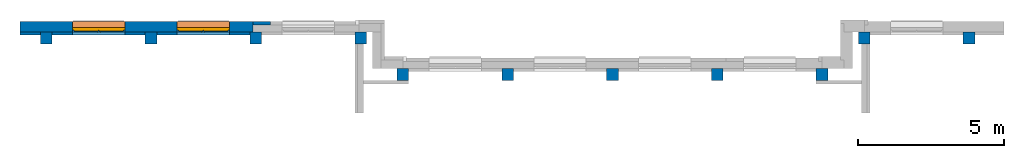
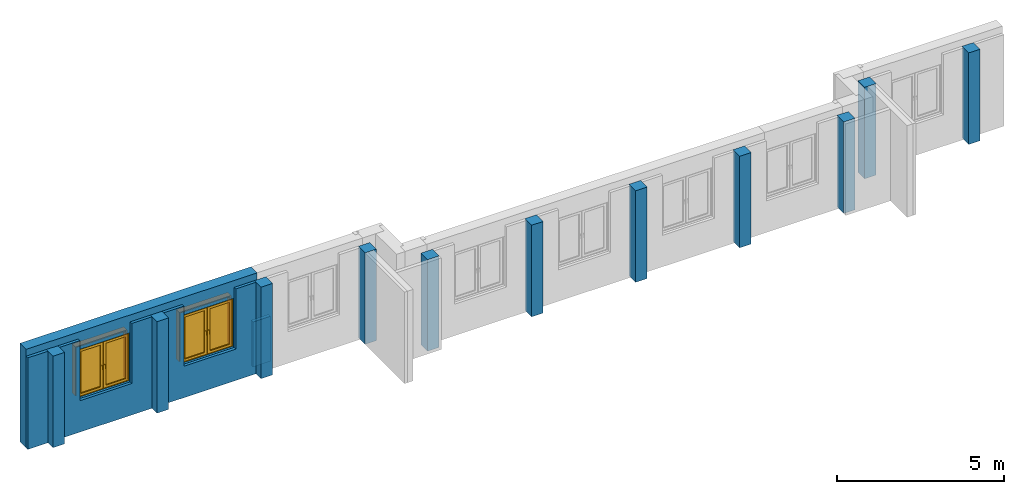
# One storey, part 1 of 7: 11 columns, 3 walls, 2 proxies, 2 windows, 4 openings.
"""IFC4 building model written with IfcOpenShell, lengths in metres."""

from ifc_helpers import new_model, entity, si_unit, converted_unit, derived_unit, frame, frame_2d, origin, origin_with_axes, place, context, subcontext, project, spatial, polyline, rectangle, outline, extrude, closed_shell, open_shell, faceted_brep, surface_model, source, transform, mapped, material, layer, layer_set, layer_usage, element, fill, save


model = new_model("IFC4")

# Units and contexts
model_context = context("Model", 3, precision=1e-05, world=origin())
body_context = subcontext(model_context, "Body", "Model", "MODEL_VIEW")
ifc_project = project(units=[si_unit("LENGTHUNIT", "METRE"), si_unit("AREAUNIT", "SQUARE_METRE"), si_unit("VOLUMEUNIT", "CUBIC_METRE"), si_unit("MASSUNIT", "GRAM", prefix="KILO"), converted_unit("PLANEANGLEUNIT", "DEGREE", entity("IfcPlaneAngleMeasure", 0.0174532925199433), si_unit("PLANEANGLEUNIT", "RADIAN"), dimensions=[0, 0, 0, 0, 0, 0, 0]), derived_unit("THERMALTRANSMITTANCEUNIT", [(si_unit("POWERUNIT", "WATT"), 1), (si_unit("THERMODYNAMICTEMPERATUREUNIT", "KELVIN"), -1), (si_unit("LENGTHUNIT", "METRE"), -2)]), derived_unit("VOLUMETRICFLOWRATEUNIT", [(si_unit("LENGTHUNIT", "METRE"), 3), (converted_unit("TIMEUNIT", "hour", entity("IfcTimeMeasure", 3600.0), si_unit("TIMEUNIT", "SECOND"), dimensions=[0, 0, 1, 0, 0, 0, 0]), -1), (si_unit("LENGTHUNIT", "METRE"), -1)])], contexts=[model_context])

# Site, building, storey
site_placement = place(None, origin())
site = spatial("IfcSite", under=ifc_project, at=site_placement, Name="3. ASŘ", CompositionType="ELEMENT")
building_placement = place(site_placement, origin())
building = spatial("IfcBuilding", under=site, at=building_placement, Name="Pavilon B", CompositionType="ELEMENT")
storey_placement = place(building_placement, frame((0.0, 0.0, 3.6)))
storey = spatial("IfcBuildingStorey", under=building, at=storey_placement, Name="Půdorys 2.NP", CompositionType="ELEMENT", Elevation=3.6)

# Columns
ifc_material_1 = material(Name="ZELEZOBETONOVÁ KCE")
column_1_placement = place(storey_placement, frame((37.05, -16.85, -0.1)))
element("IfcColumn", 1, at=column_1_placement, inside=storey, material=ifc_material_1, PredefinedType="COLUMN", context=body_context, shape_type="SweptSolid", body=[
    extrude(rectangle(XDim=0.4, YDim=0.4, at=frame_2d((-0.2, -0.2), x_axis=(-1.0, 0.0))), origin_with_axes(), (0.0, 0.0, 1.0), 3.35),
])
ifc_material_2 = material(Name="ZELEZOBETONOVÁ KCE")
column_2_placement = place(storey_placement, frame((40.65, -16.85, -0.1)))
element("IfcColumn", 2, at=column_2_placement, inside=storey, material=ifc_material_2, PredefinedType="COLUMN", context=body_context, shape_type="SweptSolid", body=[
    extrude(rectangle(XDim=0.4, YDim=0.4, at=frame_2d((-0.2, -0.2), x_axis=(-1.0, 0.0))), origin_with_axes(), (0.0, 0.0, 1.0), 3.35),
])
ifc_material_3 = material(Name="ZELEZOBETONOVÁ KCE")
column_3_placement = place(storey_placement, frame((44.25, -16.85, -0.1)))
element("IfcColumn", 3, at=column_3_placement, inside=storey, material=ifc_material_3, PredefinedType="COLUMN", context=body_context, shape_type="SweptSolid", body=[
    extrude(rectangle(XDim=0.4, YDim=0.4, at=frame_2d((-0.2, -0.2), x_axis=(-1.0, 0.0))), origin_with_axes(), (0.0, 0.0, 1.0), 3.35),
])
ifc_material_4 = material(Name="ZELEZOBETONOVÁ KCE")
column_4_placement = place(storey_placement, frame((33.45, -16.85, -0.1)))
element("IfcColumn", 4, at=column_4_placement, inside=storey, material=ifc_material_4, PredefinedType="COLUMN", context=body_context, shape_type="SweptSolid", body=[
    extrude(rectangle(XDim=0.4, YDim=0.4, at=frame_2d((-0.2, -0.2), x_axis=(-1.0, 0.0))), origin_with_axes(), (0.0, 0.0, 1.0), 3.35),
])
ifc_material_5 = material(Name="ZELEZOBETONOVÁ KCE")
column_5_placement = place(storey_placement, frame((21.2, -15.6, -0.1)))
element("IfcColumn", 5, at=column_5_placement, inside=storey, material=ifc_material_5, PredefinedType="COLUMN", context=body_context, shape_type="SweptSolid", body=[
    extrude(rectangle(XDim=0.4, YDim=0.4, at=frame_2d((-0.2, -0.2), x_axis=(-1.0, 0.0))), origin_with_axes(), (0.0, 0.0, 1.0), 3.35),
])
ifc_material_6 = material(Name="ZELEZOBETONOVÁ KCE")
column_6_placement = place(storey_placement, frame((47.85, -16.85, -0.1)))
element("IfcColumn", 6, at=column_6_placement, inside=storey, material=ifc_material_6, PredefinedType="COLUMN", context=body_context, shape_type="SweptSolid", body=[
    extrude(rectangle(XDim=0.4, YDim=0.4, at=frame_2d((-0.2, -0.2), x_axis=(-1.0, 0.0))), origin_with_axes(), (0.0, 0.0, 1.0), 3.35),
])
ifc_material_7 = material(Name="ZELEZOBETONOVÁ KCE")
column_7_placement = place(storey_placement, frame((49.3, -15.6, -0.1)))
element("IfcColumn", 7, at=column_7_placement, inside=storey, material=ifc_material_7, PredefinedType="COLUMN", context=body_context, shape_type="SweptSolid", body=[
    extrude(rectangle(XDim=0.4, YDim=0.4, at=frame_2d((-0.2, -0.2), x_axis=(-1.0, 0.0))), origin_with_axes(), (0.0, 0.0, 1.0), 3.35),
])
ifc_material_8 = material(Name="ZELEZOBETONOVÁ KCE")
column_8_placement = place(storey_placement, frame((52.9, -15.6, -0.1)))
element("IfcColumn", 8, at=column_8_placement, inside=storey, material=ifc_material_8, PredefinedType="COLUMN", context=body_context, shape_type="SweptSolid", body=[
    extrude(rectangle(XDim=0.4, YDim=0.4, at=frame_2d((-0.2, -0.2), x_axis=(-1.0, 0.0))), origin_with_axes(), (0.0, 0.0, 1.0), 3.35),
])
ifc_material_9 = material(Name="ZELEZOBETONOVÁ KCE")
column_9_placement = place(storey_placement, frame((32.0, -15.6, -0.1)))
element("IfcColumn", 9, at=column_9_placement, inside=storey, material=ifc_material_9, PredefinedType="COLUMN", context=body_context, shape_type="SweptSolid", body=[
    extrude(rectangle(XDim=0.4, YDim=0.4, at=frame_2d((-0.2, -0.2), x_axis=(-1.0, 0.0))), origin_with_axes(), (0.0, 0.0, 1.0), 3.35),
])
ifc_material_10 = material(Name="ZELEZOBETONOVÁ KCE")
column_10_placement = place(storey_placement, frame((28.4, -15.6, -0.1)))
element("IfcColumn", 10, at=column_10_placement, inside=storey, material=ifc_material_10, PredefinedType="COLUMN", context=body_context, shape_type="SweptSolid", body=[
    extrude(rectangle(XDim=0.4, YDim=0.4, at=frame_2d((-0.2, -0.2), x_axis=(-1.0, 0.0))), origin_with_axes(), (0.0, 0.0, 1.0), 3.35),
])
ifc_material_11 = material(Name="ZELEZOBETONOVÁ KCE")
column_11_placement = place(storey_placement, frame((24.8, -15.6, -0.1)))
element("IfcColumn", 11, at=column_11_placement, inside=storey, material=ifc_material_11, PredefinedType="COLUMN", context=body_context, shape_type="SweptSolid", body=[
    extrude(rectangle(XDim=0.4, YDim=0.4, at=frame_2d((-0.2, -0.2), x_axis=(-1.0, 0.0))), origin_with_axes(), (0.0, 0.0, 1.0), 3.35),
])

# Wall, openings
ifc_material_12 = material(Name="PÓROBETONOVÉ ZDIVO")
wall_1_placement = place(storey_placement, frame((28.0, -15.6, -0.1), z_axis=(0.0, 0.0, 1.0), x_axis=(-1.0, 0.0, 0.0)))
wall_1 = element("IfcWall", 12, at=wall_1_placement, inside=storey, material=ifc_material_12, Name="PÓROBETONOVÉ ZDIVO", context=body_context, shape_type="SweptSolid", body=[
    extrude(rectangle(XDim=3.2, YDim=0.1, at=frame_2d((1.6, 0.05), x_axis=(1.0, 0.0))), frame((3.6, 0.0, 0.0), z_axis=(0.0, 0.0, 1.0), x_axis=(1.0, 0.0, 0.0)), (0.0, 0.0, 1.0), 3.35),
    extrude(rectangle(XDim=0.1, YDim=3.2, at=frame_2d((-1.6, 0.05), x_axis=(0.0, 1.0))), frame((3.2, 0.0, 0.0), z_axis=(0.0, 0.0, 1.0), x_axis=(1.0, 0.0, 0.0)), (0.0, 0.0, 1.0), 3.35),
    extrude(rectangle(XDim=0.7, YDim=0.1, at=frame_2d((0.35, 0.05), x_axis=(1.0, 0.0))), frame((7.2, 0.0, 0.0), z_axis=(0.0, 0.0, 1.0), x_axis=(1.0, 0.0, 0.0)), (0.0, 0.0, 1.0), 3.35),
])
opening_1_placement = place(wall_1_placement, frame((6.1, 0.1, 1.15), z_axis=(0.0, -1.0, 0.0), x_axis=(0.0, 0.0, 1.0)))
element("IfcOpeningElement", 13, at=opening_1_placement, cuts=wall_1, Name="Okenní otvor", ObjectType="Opening", context=body_context, shape_type="SweptSolid", body=[
    extrude(outline(polyline([(0.0, 1.8), (2.2, 1.8), (2.2, 0.0), (0.0, 0.0), (0.0, 1.8)])), origin_with_axes(), (0.0, 0.0, 1.0), 0.1),
])
opening_2_placement = place(wall_1_placement, frame((2.5, 0.1, 1.15), z_axis=(0.0, -1.0, 0.0), x_axis=(0.0, 0.0, 1.0)))
element("IfcOpeningElement", 14, at=opening_2_placement, cuts=wall_1, Name="Okenní otvor", ObjectType="Opening", context=body_context, shape_type="SweptSolid", body=[
    extrude(outline(polyline([(0.0, 1.8), (2.2, 1.8), (2.2, 0.0), (0.0, 0.0), (0.0, 1.8)])), origin_with_axes(), (0.0, 0.0, 1.0), 0.1),
])

# Wall, openings, windows, proxies
ifc_material_13 = material(Name="ZELEZOBETONOVÁ KCE")
ifc_layer_1 = layer(ifc_material_13, 0.25)
ifc_material_14 = material(Name="MINERÁLNÍ VATA")
ifc_layer_2 = layer(ifc_material_14, 0.12)
ifc_layer_set_1 = layer_set([ifc_layer_1, ifc_layer_2])
ifc_layer_usage_1 = layer_usage(ifc_layer_set_1, "AXIS2", "POSITIVE", 0.0)
wall_2_placement = place(storey_placement, frame((20.1, -15.6, -0.1)))
wall_2 = element("IfcWall", 15, at=wall_2_placement, inside=storey, material=ifc_layer_usage_1, Name="ZELEZOBETONOVÁ KCE", context=body_context, shape_type="SweptSolid", body=[
    extrude(rectangle(XDim=8.0, YDim=0.37, at=frame_2d((4.0, 0.185), x_axis=(1.0, 0.0))), origin_with_axes(), (0.0, 0.0, 1.0), 3.6),
])
opening_3_placement = place(wall_2_placement, frame((3.6, 0.37, 1.15), z_axis=(0.0, -1.0, 0.0), x_axis=(0.0, 0.0, 1.0)))
opening_3 = element("IfcOpeningElement", 16, at=opening_3_placement, cuts=wall_2, Name="Okenní otvor", ObjectType="Opening", context=body_context, shape_type="SweptSolid", body=[
    extrude(outline(polyline([(0.0, 1.8), (1.8, 1.8), (1.8, 0.0), (0.0, 0.0), (0.0, 1.8)])), origin_with_axes(), (0.0, 0.0, 1.0), 0.12),
    extrude(outline(polyline([(0.0, 1.8), (1.8, 1.8), (1.8, 0.0), (0.0, 0.0), (0.0, 1.8)])), frame((0.0, 0.0, 0.12), z_axis=(0.0, 0.0, 1.0), x_axis=(1.0, 0.0, 0.0)), (0.0, 0.0, 1.0), 0.25),
])
opening_4_placement = place(wall_2_placement, frame((7.2, 0.37, 1.15), z_axis=(0.0, -1.0, 0.0), x_axis=(0.0, 0.0, 1.0)))
opening_4 = element("IfcOpeningElement", 17, at=opening_4_placement, cuts=wall_2, Name="Okenní otvor", ObjectType="Opening", context=body_context, shape_type="SweptSolid", body=[
    extrude(outline(polyline([(0.0, 1.8), (1.8, 1.8), (1.8, 0.0), (0.0, 0.0), (0.0, 1.8)])), origin_with_axes(), (0.0, 0.0, 1.0), 0.12),
    extrude(outline(polyline([(0.0, 1.8), (1.8, 1.8), (1.8, 0.0), (0.0, 0.0), (0.0, 1.8)])), frame((0.0, 0.0, 0.12), z_axis=(0.0, 0.0, 1.0), x_axis=(1.0, 0.0, 0.0)), (0.0, 0.0, 1.0), 0.25),
])
shared_shape = source(origin_with_axes(), body_context, "Body", "SurfaceModel", [
    surface_model("IfcShellBasedSurfaceModel", [(0.0, 0.182, 1.8), (0.0, 0.182, -5.63337527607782e-18), (0.08, 0.182, -5.63337527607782e-18), (0.08, 0.182, 1.8), (0.0, 0.0899999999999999, 5.63337527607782e-18), (0.0, 0.0900000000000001, 1.8), (0.08, 0.0900000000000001, 1.8), (0.08, 0.0899999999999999, 5.63337527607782e-18)], [closed_shell([[[0, 1, 2, 3]], [[4, 5, 6, 7]], [[1, 0, 5, 4]], [[2, 1, 4, 7]], [[3, 2, 7, 6]], [[0, 3, 6, 5]]], orient=[[False], [False], [False], [False], [False], [False]])]),
    surface_model("IfcShellBasedSurfaceModel", [(1.72, 0.182, 1.8), (1.72, 0.182, -5.63337527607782e-18), (1.8, 0.182, -5.63337527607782e-18), (1.8, 0.182, 1.8), (1.72, 0.0899999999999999, 5.63337527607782e-18), (1.72, 0.0900000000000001, 1.8), (1.8, 0.0900000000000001, 1.8), (1.8, 0.0899999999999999, 5.63337527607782e-18)], [closed_shell([[[0, 1, 2, 3]], [[4, 5, 6, 7]], [[1, 0, 5, 4]], [[2, 1, 4, 7]], [[3, 2, 7, 6]], [[0, 3, 6, 5]]], orient=[[False], [False], [False], [False], [False], [False]])]),
    surface_model("IfcShellBasedSurfaceModel", [(0.08, 0.182, 0.08), (0.08, 0.182, -5.63337527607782e-18), (1.72, 0.182, -5.63337527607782e-18), (1.72, 0.182, 0.08), (0.08, 0.0899999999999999, 5.63337527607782e-18), (0.08, 0.0899999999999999, 0.08), (1.72, 0.0899999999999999, 0.08), (1.72, 0.0899999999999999, 5.63337527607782e-18)], [closed_shell([[[0, 1, 2, 3]], [[4, 5, 6, 7]], [[1, 0, 5, 4]], [[2, 1, 4, 7]], [[3, 2, 7, 6]], [[0, 3, 6, 5]]], orient=[[False], [False], [False], [False], [False], [False]])]),
    surface_model("IfcShellBasedSurfaceModel", [(0.08, 0.182, 1.8), (0.08, 0.182, 1.72), (1.72, 0.182, 1.72), (1.72, 0.182, 1.8), (0.08, 0.0900000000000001, 1.72), (0.08, 0.0900000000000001, 1.8), (1.72, 0.0900000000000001, 1.8), (1.72, 0.0900000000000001, 1.72)], [closed_shell([[[0, 1, 2, 3]], [[4, 5, 6, 7]], [[1, 0, 5, 4]], [[2, 1, 4, 7]], [[3, 2, 7, 6]], [[0, 3, 6, 5]]], orient=[[False], [False], [False], [False], [False], [False]])]),
    surface_model("IfcShellBasedSurfaceModel", [(0.86, 0.182, 1.72), (0.86, 0.182, 0.08), (0.94, 0.182, 0.08), (0.94, 0.182, 1.72), (0.86, 0.0899999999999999, 0.08), (0.86, 0.0900000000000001, 1.72), (0.94, 0.0900000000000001, 1.72), (0.94, 0.0899999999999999, 0.08)], [closed_shell([[[0, 1, 2, 3]], [[4, 5, 6, 7]], [[1, 0, 5, 4]], [[2, 1, 4, 7]], [[3, 2, 7, 6]], [[0, 3, 6, 5]]], orient=[[False], [False], [False], [False], [False], [False]])]),
    surface_model("IfcShellBasedSurfaceModel", [(0.05, 0.145, 1.75), (0.05, 0.145, 0.05), (0.13, 0.145, 0.05), (0.13, 0.145, 1.75), (0.05, 0.0599999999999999, 0.05), (0.05, 0.0600000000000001, 1.75), (0.13, 0.0600000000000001, 1.75), (0.13, 0.0599999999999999, 0.05)], [closed_shell([[[0, 1, 2, 3]], [[4, 5, 6, 7]], [[1, 0, 5, 4]], [[2, 1, 4, 7]], [[3, 2, 7, 6]], [[0, 3, 6, 5]]], orient=[[False], [False], [False], [False], [False], [False]])]),
    surface_model("IfcShellBasedSurfaceModel", [(0.81, 0.145, 1.75), (0.81, 0.145, 0.05), (0.89, 0.145, 0.05), (0.89, 0.145, 1.75), (0.81, 0.0599999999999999, 0.05), (0.81, 0.0600000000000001, 1.75), (0.89, 0.0600000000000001, 1.75), (0.89, 0.0599999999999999, 0.05)], [closed_shell([[[0, 1, 2, 3]], [[4, 5, 6, 7]], [[1, 0, 5, 4]], [[2, 1, 4, 7]], [[3, 2, 7, 6]], [[0, 3, 6, 5]]], orient=[[False], [False], [False], [False], [False], [False]])]),
    surface_model("IfcShellBasedSurfaceModel", [(0.13, 0.145, 0.13), (0.13, 0.145, 0.05), (0.81, 0.145, 0.05), (0.81, 0.145, 0.13), (0.13, 0.0599999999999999, 0.05), (0.13, 0.0599999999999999, 0.13), (0.81, 0.0599999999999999, 0.13), (0.81, 0.0599999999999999, 0.05)], [closed_shell([[[0, 1, 2, 3]], [[4, 5, 6, 7]], [[1, 0, 5, 4]], [[2, 1, 4, 7]], [[3, 2, 7, 6]], [[0, 3, 6, 5]]], orient=[[False], [False], [False], [False], [False], [False]])]),
    surface_model("IfcShellBasedSurfaceModel", [(0.13, 0.145, 1.75), (0.13, 0.145, 1.67), (0.81, 0.145, 1.67), (0.81, 0.145, 1.75), (0.13, 0.0600000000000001, 1.67), (0.13, 0.0600000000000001, 1.75), (0.81, 0.0600000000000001, 1.75), (0.81, 0.0600000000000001, 1.67)], [closed_shell([[[0, 1, 2, 3]], [[4, 5, 6, 7]], [[1, 0, 5, 4]], [[2, 1, 4, 7]], [[3, 2, 7, 6]], [[0, 3, 6, 5]]], orient=[[False], [False], [False], [False], [False], [False]])]),
    surface_model("IfcShellBasedSurfaceModel", [(0.8375, 0.06, 0.92), (0.8375, 0.06, 0.88), (0.8625, 0.06, 0.88), (0.8625, 0.06, 0.92), (0.8375, 0.05, 0.88), (0.8375, 0.05, 0.92), (0.8625, 0.05, 0.92), (0.8625, 0.05, 0.88)], [closed_shell([[[0, 1, 2, 3]], [[4, 5, 6, 7]], [[1, 0, 5, 4]], [[2, 1, 4, 7]], [[3, 2, 7, 6]], [[0, 3, 6, 5]]], orient=[[False], [False], [False], [False], [False], [False]])]),
    surface_model("IfcShellBasedSurfaceModel", [(0.86, 0.05, 0.9), (0.858660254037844, 0.05, 0.905), (0.855, 0.05, 0.908660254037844), (0.85, 0.05, 0.91), (0.845, 0.05, 0.908660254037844), (0.841339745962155, 0.05, 0.905), (0.84, 0.05, 0.9), (0.841339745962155, 0.05, 0.895), (0.845, 0.05, 0.891339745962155), (0.85, 0.05, 0.89), (0.855, 0.05, 0.891339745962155), (0.858660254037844, 0.05, 0.895), (0.86, 0.01, 0.9), (0.858660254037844, 0.00500000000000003, 0.905), (0.855, 0.00133974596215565, 0.908660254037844), (0.85, 2.8421709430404e-17, 0.91), (0.845, 0.00133974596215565, 0.908660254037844), (0.841339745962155, 0.00500000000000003, 0.905), (0.84, 0.01, 0.9), (0.841339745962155, 0.015, 0.895), (0.845, 0.0186602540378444, 0.891339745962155), (0.85, 0.02, 0.89), (0.855, 0.0186602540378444, 0.891339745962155), (0.858660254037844, 0.015, 0.895), (0.86, 0.01, 0.785), (0.858660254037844, 0.005, 0.785), (0.855, 0.00133974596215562, 0.785), (0.85, 0.0, 0.785), (0.845, 0.00133974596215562, 0.785), (0.841339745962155, 0.005, 0.785), (0.84, 0.01, 0.785), (0.841339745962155, 0.015, 0.785), (0.845, 0.0186602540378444, 0.785), (0.85, 0.02, 0.785), (0.855, 0.0186602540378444, 0.785), (0.858660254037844, 0.015, 0.785)], [open_shell([[[0, 1, 2, 3, 4, 5, 6, 7, 8, 9, 10, 11]], [[0, 12, 13, 1]], [[1, 13, 14, 2]], [[2, 14, 15, 3]], [[3, 15, 16, 4]], [[4, 16, 17, 5]], [[5, 17, 18, 6]], [[6, 18, 19, 7]], [[7, 19, 20, 8]], [[8, 20, 21, 9]], [[9, 21, 22, 10]], [[10, 22, 23, 11]], [[11, 23, 12, 0]], [[12, 24, 25, 13]], [[13, 25, 26, 14]], [[14, 26, 27, 15]], [[15, 27, 28, 16]], [[16, 28, 29, 17]], [[17, 29, 30, 18]], [[18, 30, 31, 19]], [[19, 31, 32, 20]], [[20, 32, 33, 21]], [[21, 33, 34, 22]], [[22, 34, 35, 23]], [[23, 35, 24, 12]]], orient=[[False], [False], [False], [False], [False], [False], [False], [False], [False], [False], [False], [False], [False], [False], [False], [False], [False], [False], [False], [False], [False], [False], [False], [False], [False]])]),
    surface_model("IfcShellBasedSurfaceModel", [(0.91, 0.145, 1.75), (0.91, 0.145, 0.05), (0.99, 0.145, 0.05), (0.99, 0.145, 1.75), (0.91, 0.0599999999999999, 0.05), (0.91, 0.0600000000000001, 1.75), (0.99, 0.0600000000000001, 1.75), (0.99, 0.0599999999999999, 0.05)], [closed_shell([[[0, 1, 2, 3]], [[4, 5, 6, 7]], [[1, 0, 5, 4]], [[2, 1, 4, 7]], [[3, 2, 7, 6]], [[0, 3, 6, 5]]], orient=[[False], [False], [False], [False], [False], [False]])]),
    surface_model("IfcShellBasedSurfaceModel", [(1.67, 0.145, 1.75), (1.67, 0.145, 0.05), (1.75, 0.145, 0.05), (1.75, 0.145, 1.75), (1.67, 0.0599999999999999, 0.05), (1.67, 0.0600000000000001, 1.75), (1.75, 0.0600000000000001, 1.75), (1.75, 0.0599999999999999, 0.05)], [closed_shell([[[0, 1, 2, 3]], [[4, 5, 6, 7]], [[1, 0, 5, 4]], [[2, 1, 4, 7]], [[3, 2, 7, 6]], [[0, 3, 6, 5]]], orient=[[False], [False], [False], [False], [False], [False]])]),
    surface_model("IfcShellBasedSurfaceModel", [(0.99, 0.145, 0.13), (0.99, 0.145, 0.05), (1.67, 0.145, 0.05), (1.67, 0.145, 0.13), (0.99, 0.0599999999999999, 0.05), (0.99, 0.0599999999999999, 0.13), (1.67, 0.0599999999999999, 0.13), (1.67, 0.0599999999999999, 0.05)], [closed_shell([[[0, 1, 2, 3]], [[4, 5, 6, 7]], [[1, 0, 5, 4]], [[2, 1, 4, 7]], [[3, 2, 7, 6]], [[0, 3, 6, 5]]], orient=[[False], [False], [False], [False], [False], [False]])]),
    surface_model("IfcShellBasedSurfaceModel", [(0.99, 0.145, 1.75), (0.99, 0.145, 1.67), (1.67, 0.145, 1.67), (1.67, 0.145, 1.75), (0.99, 0.0600000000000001, 1.67), (0.99, 0.0600000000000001, 1.75), (1.67, 0.0600000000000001, 1.75), (1.67, 0.0600000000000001, 1.67)], [closed_shell([[[0, 1, 2, 3]], [[4, 5, 6, 7]], [[1, 0, 5, 4]], [[2, 1, 4, 7]], [[3, 2, 7, 6]], [[0, 3, 6, 5]]], orient=[[False], [False], [False], [False], [False], [False]])]),
    surface_model("IfcShellBasedSurfaceModel", [(0.9375, 0.06, 0.92), (0.9375, 0.06, 0.88), (0.9625, 0.06, 0.88), (0.9625, 0.06, 0.92), (0.9375, 0.05, 0.88), (0.9375, 0.05, 0.92), (0.9625, 0.05, 0.92), (0.9625, 0.05, 0.88)], [closed_shell([[[0, 1, 2, 3]], [[4, 5, 6, 7]], [[1, 0, 5, 4]], [[2, 1, 4, 7]], [[3, 2, 7, 6]], [[0, 3, 6, 5]]], orient=[[False], [False], [False], [False], [False], [False]])]),
    surface_model("IfcShellBasedSurfaceModel", [(0.96, 0.05, 0.9), (0.958660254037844, 0.05, 0.905), (0.955, 0.05, 0.908660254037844), (0.95, 0.05, 0.91), (0.945, 0.05, 0.908660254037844), (0.941339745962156, 0.05, 0.905), (0.94, 0.05, 0.9), (0.941339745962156, 0.05, 0.895), (0.945, 0.05, 0.891339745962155), (0.95, 0.05, 0.89), (0.955, 0.05, 0.891339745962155), (0.958660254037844, 0.05, 0.895), (0.96, 0.01, 0.9), (0.958660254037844, 0.00500000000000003, 0.905), (0.955, 0.00133974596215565, 0.908660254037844), (0.95, 2.8421709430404e-17, 0.91), (0.945, 0.00133974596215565, 0.908660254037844), (0.941339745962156, 0.00500000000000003, 0.905), (0.94, 0.01, 0.9), (0.941339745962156, 0.015, 0.895), (0.945, 0.0186602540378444, 0.891339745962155), (0.95, 0.02, 0.89), (0.955, 0.0186602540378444, 0.891339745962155), (0.958660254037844, 0.015, 0.895), (0.96, 0.01, 0.785), (0.958660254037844, 0.005, 0.785), (0.955, 0.00133974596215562, 0.785), (0.95, 0.0, 0.785), (0.945, 0.00133974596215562, 0.785), (0.941339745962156, 0.005, 0.785), (0.94, 0.01, 0.785), (0.941339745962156, 0.015, 0.785), (0.945, 0.0186602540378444, 0.785), (0.95, 0.02, 0.785), (0.955, 0.0186602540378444, 0.785), (0.958660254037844, 0.015, 0.785)], [open_shell([[[0, 1, 2, 3, 4, 5, 6, 7, 8, 9, 10, 11]], [[0, 12, 13, 1]], [[1, 13, 14, 2]], [[2, 14, 15, 3]], [[3, 15, 16, 4]], [[4, 16, 17, 5]], [[5, 17, 18, 6]], [[6, 18, 19, 7]], [[7, 19, 20, 8]], [[8, 20, 21, 9]], [[9, 21, 22, 10]], [[10, 22, 23, 11]], [[11, 23, 12, 0]], [[12, 24, 25, 13]], [[13, 25, 26, 14]], [[14, 26, 27, 15]], [[15, 27, 28, 16]], [[16, 28, 29, 17]], [[17, 29, 30, 18]], [[18, 30, 31, 19]], [[19, 31, 32, 20]], [[20, 32, 33, 21]], [[21, 33, 34, 22]], [[22, 34, 35, 23]], [[23, 35, 24, 12]]], orient=[[False], [False], [False], [False], [False], [False], [False], [False], [False], [False], [False], [False], [False], [False], [False], [False], [False], [False], [False], [False], [False], [False], [False], [False], [False]])]),
    surface_model("IfcShellBasedSurfaceModel", [(0.13, 0.1025, 0.13), (0.81, 0.1025, 0.13), (0.81, 0.1025, 1.67), (0.13, 0.1025, 1.67)], [open_shell([[[0, 1, 2, 3]]], orient=[[False]])]),
    surface_model("IfcShellBasedSurfaceModel", [(0.99, 0.1025, 0.13), (1.67, 0.1025, 0.13), (1.67, 0.1025, 1.67), (0.99, 0.1025, 1.67)], [open_shell([[[0, 1, 2, 3]]], orient=[[False]])]),
])
window_1_placement = place(opening_3_placement, frame((0.0, 1.8, 0.382000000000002), z_axis=(1.0, 0.0, 0.0), x_axis=(0.0, -1.0, 2.44929359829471e-16)))
window_1 = element("IfcWindow", 18, at=window_1_placement, inside=storey, Name="O06", OverallHeight=1.8, OverallWidth=1.8, PartitioningType="USERDEFINED", PredefinedType="WINDOW", context=body_context, shape_type="MappedRepresentation", body=[
    mapped(shared_shape, transform((0.0, 0.0, 0.0), x_axis=(1.0, 0.0, 0.0), y_axis=(0.0, 1.0, 0.0), z_axis=(0.0, 0.0, 1.0), scale=1.0)),
])
fill(opening_3, window_1)
window_2_placement = place(opening_4_placement, frame((0.0, 1.8, 0.382), z_axis=(1.0, 0.0, 0.0), x_axis=(0.0, -1.0, 2.44929359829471e-16)))
window_2 = element("IfcWindow", 19, at=window_2_placement, inside=storey, Name="O06", OverallHeight=1.8, OverallWidth=1.8, PartitioningType="USERDEFINED", PredefinedType="WINDOW", context=body_context, shape_type="MappedRepresentation", body=[
    mapped(shared_shape, transform((0.0, 0.0, 0.0), x_axis=(1.0, 0.0, 0.0), y_axis=(0.0, 1.0, 0.0), z_axis=(0.0, 0.0, 1.0), scale=1.0)),
])
fill(opening_4, window_2)
ifc_material_15 = material(Name="MINERÁLNÍ VATA")
proxy_1_placement = place(opening_3_placement, frame((0.0, 1.8, 0.2)))
proxy_1 = element("IfcBuildingElementProxy", 20, at=proxy_1_placement, inside=storey, material=ifc_material_15, context=body_context, shape_type="Brep", body=[
    faceted_brep([(0.0, -1.8, -0.2), (0.0, -1.8, 0.0), (1.8, -1.8, 0.0), (1.8, -1.8, -0.2), (1.8, 0.0, 0.0), (1.8, 0.0, -0.2), (0.0, -1.76, -0.2), (0.0, -1.76, 0.0), (0.0, 0.0, -0.2), (0.0, -0.0400000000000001, -0.2), (1.76, -0.0400000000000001, -0.2), (1.76, -1.76, -0.2), (1.76, -1.76, 0.0), (1.76, -0.0400000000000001, 0.0), (0.0, -0.0400000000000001, 0.0), (0.0, 0.0, 0.0)], [[[0, 1, 2, 3]], [[3, 2, 4, 5]], [[0, 6, 7, 1]], [[6, 0, 3, 5, 8, 9, 10, 11]], [[1, 7, 12, 13, 14, 15, 4, 2]], [[7, 6, 11, 12]], [[15, 8, 5, 4]], [[9, 8, 15, 14]], [[9, 14, 13, 10]], [[12, 11, 10, 13]]], orient=[[False], [False], [False], [False], [False], [False], [False], [False], [False], [False]]),
])
fill(opening_3, proxy_1)
ifc_material_16 = material(Name="MINERÁLNÍ VATA")
proxy_2_placement = place(opening_4_placement, frame((0.0, 1.8, 0.2)))
proxy_2 = element("IfcBuildingElementProxy", 21, at=proxy_2_placement, inside=storey, material=ifc_material_16, context=body_context, shape_type="Brep", body=[
    faceted_brep([(0.0, 0.0, 0.0), (0.0, 0.0, -0.2), (1.8, 0.0, -0.2), (1.8, 0.0, 0.0), (1.8, -1.8, -0.2), (1.8, -1.8, 0.0), (0.0, -0.0400000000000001, -0.2), (0.0, -0.0400000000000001, 0.0), (0.0, -1.8, 0.0), (0.0, -1.76, 0.0), (1.76, -1.76, 0.0), (1.76, -0.0400000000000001, 0.0), (1.76, -0.0400000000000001, -0.2), (1.76, -1.76, -0.2), (0.0, -1.76, -0.2), (0.0, -1.8, -0.2)], [[[0, 1, 2, 3]], [[2, 4, 5, 3]], [[6, 1, 0, 7]], [[7, 0, 3, 5, 8, 9, 10, 11]], [[1, 6, 12, 13, 14, 15, 4, 2]], [[6, 7, 11, 12]], [[15, 8, 5, 4]], [[15, 14, 9, 8]], [[9, 14, 13, 10]], [[10, 13, 12, 11]]], orient=[[False], [False], [False], [False], [False], [False], [False], [False], [False], [False]]),
])
fill(opening_4, proxy_2)

# Wall
ifc_material_17 = material(Name="MINERÁLNÍ VATA")
ifc_layer_3 = layer(ifc_material_17, 0.12)
ifc_layer_set_2 = layer_set([ifc_layer_3])
ifc_layer_usage_2 = layer_usage(ifc_layer_set_2, "AXIS2", "POSITIVE", 0.0)
wall_3_placement = place(storey_placement, frame((28.7, -15.23, -0.1), z_axis=(0.0, 0.0, 1.0), x_axis=(-1.0, 0.0, 0.0)))
element("IfcWall", 22, at=wall_3_placement, inside=storey, material=ifc_layer_usage_2, Name="MINERÁLNÍ VATA", context=body_context, shape_type="SweptSolid", body=[
    extrude(rectangle(XDim=0.6, YDim=0.12, at=frame_2d((0.3, 0.06), x_axis=(1.0, 0.0))), origin_with_axes(), (0.0, 0.0, 1.0), 1.65),
])

save(model, "model.ifc")
